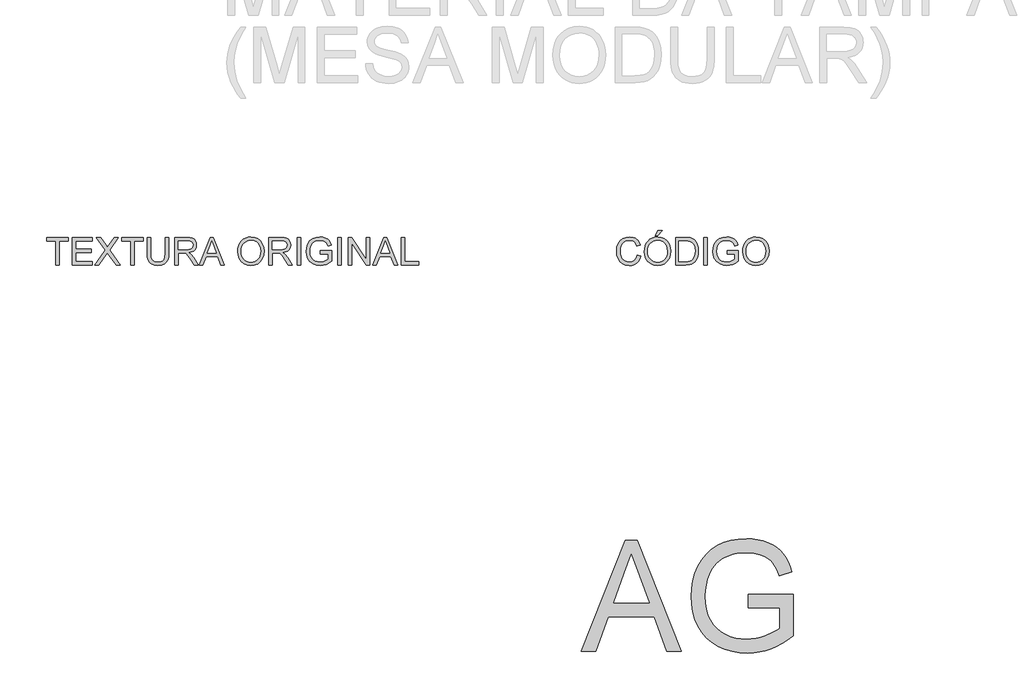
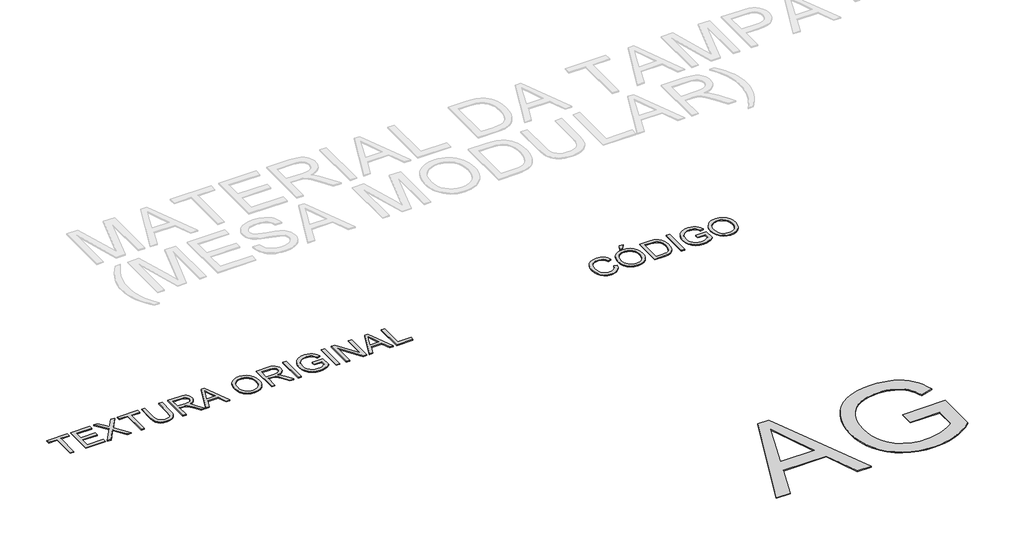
# One storey, part 37 of 67: 3 proxies.
"""IFC4 building model written with IfcOpenShell, lengths in millimetres."""

from ifc_helpers import new_model, si_unit, origin, origin_with_axes, place, context, project, spatial, polyline, outline, extrude, element, save

model = new_model("IFC4")

# Units and contexts
model_context = context("Model", 3, world=origin())
ifc_project = project(units=[si_unit("LENGTHUNIT", "METRE", prefix="MILLI")], contexts=[model_context])

# Site, building, storey
site = spatial("IfcSite", under=ifc_project)
building = spatial("IfcBuilding", under=site)
storey = spatial("IfcBuildingStorey", under=building, Name="Marelli - Linha COLAB - Planta Baixa", Elevation=0.0)

# Proxies
placement = place(None, origin())
element("IfcBuildingElementProxy", 1, Name="1200mm Arial", ObjectType="1200mm Arial", at=placement, inside=storey, context=model_context, shape_type="SweptSolid", body=[
    extrude(outline(polyline([(24687.9026305, -87980.5663201), (25169.0922802, -86775.0905983), (25297.4095201, -86775.0905983), (25778.5991698, -87980.5663201), (25619.3798423, -87980.5663201), (25481.3505177, -87603.855157), (24984.856977, -87603.855157), (24847.121958, -87980.5663201), (24687.9026305, -87980.5663201)]), holes=[polyline([(25040.1864291, -87453.1706918), (25426.3153712, -87453.1706918), (25317.7166063, -87156.8049565), (25233.2509002, -86925.7750635), (25158.2029731, -87130.906064), (25040.1864291, -87453.1706918)])]), origin_with_axes(), (0.0, 0.0, 1.0), 10.0),
    extrude(outline(polyline([(26504.6510755, -87509.6773662), (26504.6510755, -87358.992901), (26994.3755875, -87358.992901), (26994.3755875, -87809.5747687), (26935.3397243, -87853.886155), (26875.365762, -87892.3482176), (26814.4537007, -87924.9609565), (26752.6035402, -87951.7243716), (26689.8888571, -87972.5832808), (26626.3832277, -87987.4825016), (26562.086652, -87996.4220341), (26496.99913, -87999.4018782), (26410.4456936, -87994.6653975), (26327.9573532, -87980.4559555), (26249.5341089, -87956.773552), (26175.1759606, -87923.6181872), (26107.2833384, -87881.4865017), (26048.2566723, -87830.8751362), (25998.0959622, -87771.7840908), (25956.8012083, -87704.2133653), (25924.5471544, -87630.3242666), (25901.5085444, -87552.2781013), (25887.6853784, -87470.0748695), (25883.0776564, -87383.7145711), (25887.6669843, -87297.3450757), (25901.434968, -87213.9370303), (25924.3816075, -87133.490435), (25956.5069027, -87056.0052898), (25997.2406366, -86984.8845031), (26046.0125921, -86923.5309833), (26102.8227692, -86871.9447306), (26167.6711679, -86830.1257448), (26239.1506396, -86797.8073115), (26315.8540356, -86774.7227163), (26397.7813559, -86760.8719592), (26484.9326006, -86756.2550401), (26548.5577916, -86758.9313816), (26609.0559857, -86766.9604062), (26666.4271829, -86780.3421138), (26720.6713831, -86799.0765044), (26770.5101964, -86822.5841639), (26814.6652328, -86850.2856781), (26853.1364925, -86882.1810471), (26885.9239753, -86918.2702708), (26914.076145, -86959.3718867), (26938.6414652, -87006.3044322), (26959.619936, -87059.0679074), (26977.0115573, -87117.6623122), (26838.0993159, -87156.8049565), (26823.4300214, -87114.6548769), (26807.0868637, -87077.3792337), (26789.069843, -87044.978027), (26769.3789592, -87017.4512567), (26746.6438519, -86993.6125034), (26719.4941607, -86972.2753477), (26687.9298855, -86953.4397895), (26651.9510264, -86937.1058289), (26612.7256086, -86923.9080624), (26571.4216576, -86914.4810862), (26528.0391733, -86908.8249006), (26482.5781558, -86906.9395053), (26428.6926405, -86908.9720534), (26378.5779157, -86915.0696974), (26332.2339814, -86925.2324376), (26289.6608375, -86939.4602737), (26250.9412575, -86956.9898508), (26216.1580149, -86977.0578136), (26185.3111096, -86999.6641622), (26158.4005416, -87024.8088966), (26114.0707612, -87080.2487133), (26080.8510171, -87140.9124543), (26060.2496253, -87196.6465765), (26045.5343455, -87254.6615672), (26036.7051776, -87314.9574262), (26033.7621217, -87377.5341536), (26037.3029859, -87452.7752186), (26047.9255785, -87521.6335311), (26065.6298995, -87584.1090909), (26090.4159489, -87640.2018981), (26121.96183, -87689.7004206), (26159.945646, -87732.3931261), (26204.3673969, -87768.2800148), (26255.2270828, -87797.3610865), (26310.1426676, -87819.8294793), (26366.7321155, -87835.8783314), (26424.9954265, -87845.5076426), (26484.9326006, -87848.717413), (26537.4385583, -87846.2985889), (26589.3007226, -87839.0421165), (26640.5190934, -87826.9479959), (26691.0936707, -87810.0162271), (26779.4957141, -87770.0274542), (26814.6192476, -87749.0673776), (26843.6911222, -87727.4635074), (26843.6911222, -87509.6773662), (26504.6510755, -87509.6773662)])), origin_with_axes(), (0.0, 0.0, 1.0), 10.0),
])
element("IfcBuildingElementProxy", 2, Name="300mm Arial", ObjectType="300mm Arial", at=placement, inside=storey, context=model_context, shape_type="SweptSolid", body=[
    extrude(outline(polyline([(25299.1753537, -83673.4390831), (25336.84647, -83683.1511677), (25329.3922611, -83706.5783531), (25319.4640457, -83727.0486868), (25307.061824, -83744.5621691), (25292.1855958, -83759.1187997), (25275.1710535, -83770.5622291), (25256.3538895, -83778.7361071), (25235.7341036, -83783.640434), (25213.311696, -83785.2752096), (25169.616512, -83780.3271968), (25134.9160429, -83765.4831583), (25108.3181746, -83741.2581289), (25088.9307935, -83708.1671434), (25077.0941903, -83669.2636224), (25073.1486559, -83627.6009865), (25077.6092251, -83583.6574821), (25090.9909326, -83545.7104543), (25112.5948028, -83514.9647166), (25141.7218598, -83492.6250824), (25176.2659791, -83479.0226457), (25214.1210364, -83474.4885001), (25255.4249874, -83480.3562179), (25273.3937236, -83487.6908652), (25289.5736336, -83497.9593714), (25303.698003, -83510.8904235), (25315.5001172, -83526.2127086), (25332.1375805, -83564.0309777), (25294.4664642, -83573.0072984), (25281.4066533, -83545.5357104), (25263.5643766, -83526.6909552), (25240.7189047, -83515.7924511), (25212.6495084, -83512.1596164), (25180.294287, -83516.1879242), (25153.7148128, -83528.2728478), (25133.5456824, -83547.1451941), (25120.4214922, -83571.5357704), (25113.2202022, -83599.1085259), (25110.8197722, -83627.5274101), (25113.6616606, -83662.3290468), (25122.1873258, -83692.421794), (25136.7186646, -83716.6560205), (25157.5775738, -83733.8820949), (25182.5843524, -83744.1735937), (25209.5592997, -83747.6040933), (25241.0040132, -83742.931992), (25267.2064083, -83728.9156879), (25286.9892626, -83705.702334), (25299.1753537, -83673.4390831)])), origin_with_axes(), (0.0, 0.0, 1.0), 10.0),
    extrude(outline(polyline([(25374.5175863, -83633.8549804), (25377.0283809, -83598.5061192), (25384.5607648, -83567.213157), (25397.1147379, -83539.9760937), (25414.6903002, -83516.7949295), (25436.2343895, -83498.2858666), (25460.6939437, -83485.0651074), (25488.0689626, -83477.1326519), (25518.3594464, -83474.4885001), (25557.8883668, -83479.454907), (25593.333797, -83494.3541278), (25622.7643567, -83518.1376988), (25644.2486652, -83549.7571563), (25657.3820524, -83587.68579), (25661.7598481, -83630.3968896), (25657.1521262, -83673.6782064), (25643.3289602, -83712.140269), (25621.0537054, -83743.8149087), (25591.0897169, -83766.733957), (25555.9477893, -83780.6398965), (25518.1387172, -83785.2752096), (25478.0027916, -83780.1524528), (25442.3550262, -83764.7841825), (25412.998043, -83740.5591531), (25391.7344637, -83708.8661192), (25378.8218057, -83672.3998164), (25374.5175863, -83633.8549804)]), holes=[polyline([(25412.1887026, -83634.2228624), (25414.0717986, -83659.1974513), (25419.7210865, -83681.3669401), (25429.1365663, -83700.7313286), (25442.318238, -83717.2906169), (25458.3417982, -83730.5527628), (25476.2829432, -83740.0257242), (25496.1416732, -83745.709501), (25517.917988, -83747.6040933), (25540.0667834, -83745.6911069), (25560.1600381, -83739.9521478), (25578.1977522, -83730.3872159), (25594.1799256, -83716.9963113), (25607.2650283, -83700.0875351), (25616.6115303, -83679.9689885), (25622.2194315, -83656.6406715), (25624.0887318, -83630.102584), (25620.8881585, -83596.7540812), (25611.2864384, -83567.9305269), (25595.531892, -83544.358488), (25573.8728395, -83526.7645316), (25547.7440208, -83515.8108452), (25518.5801756, -83512.1596164), (25497.5603181, -83513.9185522), (25478.0579739, -83519.1953595), (25460.0731428, -83527.9900385), (25443.605825, -83540.302589), (25429.860834, -83556.7262208), (25420.0429832, -83577.8541437), (25414.1522728, -83603.6863575), (25412.1887026, -83634.2228624)])]), origin_with_axes(), (0.0, 0.0, 1.0), 10.0),
    extrude(outline(polyline([(25492.2398248, -83460.3618315), (25520.493162, -83403.855157), (25567.5820574, -83403.855157), (25520.493162, -83460.3618315), (25492.2398248, -83460.3618315)])), origin_with_axes(), (0.0, 0.0, 1.0), 10.0),
    extrude(outline(polyline([(25713.5576331, -83780.5663201), (25713.5576331, -83479.1973896), (25817.5210849, -83479.1973896), (25871.3054326, -83483.5383972), (25895.3281269, -83491.9077126), (25915.5984248, -83505.0962821), (25936.4389398, -83528.0521186), (25951.2829783, -83556.5997614), (25960.1673285, -83590.1873876), (25963.1287786, -83628.2631741), (25961.1238217, -83660.6091985), (25955.1089511, -83689.0740679), (25945.9486894, -83713.3082943), (25934.5075594, -83732.9623899), (25921.3373839, -83748.477813), (25906.9899861, -83760.2960221), (25890.5180698, -83769.0608107), (25870.9743388, -83775.4159721), (25822.52428, -83780.5663201), (25713.5576331, -83780.5663201)]), holes=[polyline([(25751.2287494, -83742.8952038), (25817.8889669, -83742.8952038), (25845.4617224, -83741.5340404), (25866.3758139, -83737.4505502), (25882.1579515, -83730.8838566), (25894.3348455, -83722.0730828), (25907.4222475, -83705.7667134), (25917.2538938, -83684.6594839), (25923.4067202, -83658.6594239), (25925.4576623, -83627.6745629), (25921.4385515, -83586.6189322), (25909.3812191, -83556.3054558), (25891.5665335, -83535.4833349), (25870.275363, -83522.9017706), (25848.6071135, -83518.3768221), (25816.8588973, -83516.8685059), (25751.2287494, -83516.8685059), (25751.2287494, -83742.8952038)])]), origin_with_axes(), (0.0, 0.0, 1.0), 10.0),
    extrude(outline(polyline([(26019.6354531, -83780.5663201), (26019.6354531, -83479.1973896), (26057.3065694, -83479.1973896), (26057.3065694, -83780.5663201), (26019.6354531, -83780.5663201)])), origin_with_axes(), (0.0, 0.0, 1.0), 10.0),
    extrude(outline(polyline([(26273.9154881, -83662.8440816), (26273.9154881, -83625.1729653), (26396.3466161, -83625.1729653), (26396.3466161, -83737.8184322), (26366.5941598, -83758.5117945), (26335.9036043, -83773.355833), (26304.3485262, -83782.2953654), (26272.0025017, -83785.2752096), (26229.7420575, -83780.5387289), (26191.5467094, -83766.3292869), (26159.8168873, -83743.1435241), (26136.9530213, -83711.4780814), (26123.1298553, -83673.4942654), (26118.5221334, -83631.3533828), (26123.1114612, -83588.9089976), (26136.8794449, -83549.4260625), (26159.2558673, -83516.3074859), (26189.6705112, -83492.9561762), (26226.7162281, -83479.1054191), (26268.9858694, -83474.4885001), (26300.0167157, -83477.1648416), (26327.920565, -83485.1938661), (26351.4190275, -83497.9961596), (26369.2337131, -83514.9923077), (26382.4130855, -83537.0008481), (26392.0056086, -83564.8403181), (26357.2775482, -83574.6259792), (26349.5244352, -83554.7695485), (26340.0974591, -83539.7875542), (26327.6262594, -83528.493577), (26310.7404758, -83519.7011973), (26290.6081337, -83514.0450116), (26268.3972582, -83512.1596164), (26242.3971982, -83514.1921644), (26220.1679286, -83520.2898085), (26201.792223, -83529.6891935), (26187.3528547, -83541.6269642), (26167.9654735, -83570.6528536), (26159.1363056, -83599.0901318), (26156.1932497, -83629.8082784), (26159.7341139, -83665.8331228), (26170.3567065, -83695.4752146), (26187.7391307, -83718.5230216), (26211.5594899, -83734.7650117), (26239.4357481, -83744.3943229), (26268.9858694, -83747.6040933), (26295.0778999, -83745.1852692), (26320.5261369, -83737.9287968), (26342.6266478, -83727.9316036), (26358.6754998, -83717.2906169), (26358.6754998, -83662.8440816), (26273.9154881, -83662.8440816)])), origin_with_axes(), (0.0, 0.0, 1.0), 10.0),
    extrude(outline(polyline([(26443.4355115, -83633.8549804), (26445.9463061, -83598.5061192), (26453.47869, -83567.213157), (26466.0326631, -83539.9760937), (26483.6082254, -83516.7949295), (26505.1523147, -83498.2858666), (26529.6118689, -83485.0651074), (26556.9868878, -83477.1326519), (26587.2773716, -83474.4885001), (26626.806292, -83479.454907), (26662.2517222, -83494.3541278), (26691.6822818, -83518.1376988), (26713.1665904, -83549.7571563), (26726.2999776, -83587.68579), (26730.6777733, -83630.3968896), (26726.0700513, -83673.6782064), (26712.2468854, -83712.140269), (26689.9716306, -83743.8149087), (26660.0076421, -83766.733957), (26624.8657145, -83780.6398965), (26587.0566424, -83785.2752096), (26546.9207167, -83780.1524528), (26511.2729514, -83764.7841825), (26481.9159682, -83740.5591531), (26460.6523889, -83708.8661192), (26447.7397308, -83672.3998164), (26443.4355115, -83633.8549804)]), holes=[polyline([(26481.1066278, -83634.2228624), (26482.9897238, -83659.1974513), (26488.6390117, -83681.3669401), (26498.0544915, -83700.7313286), (26511.2361632, -83717.2906169), (26527.2597234, -83730.5527628), (26545.2008684, -83740.0257242), (26565.0595984, -83745.709501), (26586.8359132, -83747.6040933), (26608.9847086, -83745.6911069), (26629.0779633, -83739.9521478), (26647.1156774, -83730.3872159), (26663.0978508, -83716.9963113), (26676.1829535, -83700.0875351), (26685.5294555, -83679.9689885), (26691.1373566, -83656.6406715), (26693.006657, -83630.102584), (26689.8060837, -83596.7540812), (26680.2043636, -83567.9305269), (26664.4498171, -83544.358488), (26642.7907647, -83526.7645316), (26616.661946, -83515.8108452), (26587.4981008, -83512.1596164), (26566.4782433, -83513.9185522), (26546.975899, -83519.1953595), (26528.991068, -83527.9900385), (26512.5237502, -83540.302589), (26498.7787591, -83556.7262208), (26488.9609084, -83577.8541437), (26483.070198, -83603.6863575), (26481.1066278, -83634.2228624)])]), origin_with_axes(), (0.0, 0.0, 1.0), 10.0),
])
element("IfcBuildingElementProxy", 3, Name="300mm Arial", ObjectType="300mm Arial", at=placement, inside=storey, context=model_context, shape_type="SweptSolid", body=[
    extrude(outline(polyline([(18978.3318382, -83780.5663201), (18978.3318382, -83516.8685059), (18879.4451579, -83516.8685059), (18879.4451579, -83479.1973896), (19114.8896348, -83479.1973896), (19114.8896348, -83516.8685059), (19016.0029545, -83516.8685059), (19016.0029545, -83780.5663201), (18978.3318382, -83780.5663201)])), origin_with_axes(), (0.0, 0.0, 1.0), 10.0),
    extrude(outline(polyline([(19157.2696407, -83780.5663201), (19157.2696407, -83479.1973896), (19373.8785594, -83479.1973896), (19373.8785594, -83516.8685059), (19194.940757, -83516.8685059), (19194.940757, -83606.3374072), (19364.4607804, -83606.3374072), (19364.4607804, -83644.0085235), (19194.940757, -83644.0085235), (19194.940757, -83742.8952038), (19378.587449, -83742.8952038), (19378.587449, -83780.5663201), (19157.2696407, -83780.5663201)])), origin_with_axes(), (0.0, 0.0, 1.0), 10.0),
    extrude(outline(polyline([(19402.1318967, -83780.5663201), (19518.3090307, -83616.3437974), (19420.9674548, -83479.1973896), (19466.1433638, -83479.1973896), (19520.9577811, -83556.3790322), (19539.4254573, -83586.4717794), (19561.0569186, -83555.8639974), (19615.2827247, -83479.1973896), (19661.1208213, -83479.1973896), (19563.7792453, -83616.7852558), (19679.9563794, -83780.5663201), (19634.7804704, -83780.5663201), (19557.3780986, -83671.3789439), (19541.2648672, -83648.717413), (19523.5329551, -83673.5862359), (19447.9699933, -83780.5663201), (19402.1318967, -83780.5663201)])), origin_with_axes(), (0.0, 0.0, 1.0), 10.0),
    extrude(outline(polyline([(19792.9697283, -83780.5663201), (19792.9697283, -83516.8685059), (19694.083048, -83516.8685059), (19694.083048, -83479.1973896), (19929.5275249, -83479.1973896), (19929.5275249, -83516.8685059), (19830.6408446, -83516.8685059), (19830.6408446, -83780.5663201), (19792.9697283, -83780.5663201)])), origin_with_axes(), (0.0, 0.0, 1.0), 10.0),
    extrude(outline(polyline([(20169.6808914, -83479.1973896), (20207.3520077, -83479.1973896), (20207.3520077, -83653.0584205), (20204.7952278, -83693.7737604), (20197.1248882, -83725.1265034), (20182.7958845, -83749.3147446), (20160.2631123, -83768.5365788), (20129.4713893, -83781.0905519), (20090.3655332, -83785.2752096), (20052.1150028, -83781.6331779), (20021.5348119, -83770.7070826), (19998.6157636, -83752.8740029), (19983.3486608, -83728.5110178), (19974.7678133, -83695.8338995), (19971.9075308, -83653.0584205), (19971.9075308, -83479.1973896), (20009.5786471, -83479.1973896), (20009.5786471, -83651.7340454), (20011.4364512, -83685.588386), (20017.0098634, -83709.1604248), (20027.1082242, -83725.4851883), (20042.5408739, -83737.597703), (20062.664019, -83745.1024957), (20086.8338661, -83747.6040933), (20125.1487759, -83742.6560805), (20139.4915752, -83736.4710644), (20150.624604, -83727.812042), (20158.9617298, -83715.6351479), (20164.9168196, -83698.8965171), (20169.6808914, -83651.7340454), (20169.6808914, -83479.1973896)])), origin_with_axes(), (0.0, 0.0, 1.0), 10.0),
    extrude(outline(polyline([(20273.2764612, -83780.5663201), (20273.2764612, -83479.1973896), (20403.1388055, -83479.1973896), (20438.0416098, -83481.2299376), (20463.4346645, -83487.3275817), (20481.9943112, -83498.5847708), (20496.3968913, -83516.0959537), (20505.6399264, -83537.8101885), (20508.7209382, -83561.6765329), (20503.6165755, -83591.3646099), (20488.3034874, -83615.9759154), (20476.7037083, -83626.0052983), (20462.3218215, -83634.0205273), (20425.2117252, -83644.0085235), (20446.6224574, -83660.1217548), (20477.156663, -83698.8965171), (20527.4093435, -83780.5663201), (20483.6313861, -83780.5663201), (20444.4151654, -83718.0999573), (20416.0882518, -83676.750021), (20396.1858358, -83657.2154871), (20378.2699827, -83650.0417882), (20356.4177921, -83648.717413), (20310.9475775, -83648.717413), (20310.9475775, -83780.5663201), (20273.2764612, -83780.5663201)]), holes=[polyline([(20310.9475775, -83611.0462967), (20395.2661308, -83611.0462967), (20419.4819632, -83609.7127245), (20438.2715361, -83605.7120078), (20452.4165988, -83598.7774322), (20462.6989006, -83588.6422832), (20468.9620915, -83576.3826157), (20471.0498218, -83563.0744845), (20467.0674992, -83544.6987789), (20455.1205315, -83529.8915286), (20434.565125, -83520.1242616), (20404.7574863, -83516.8685059), (20310.9475775, -83516.8685059), (20310.9475775, -83611.0462967)])]), origin_with_axes(), (0.0, 0.0, 1.0), 10.0),
    extrude(outline(polyline([(20539.5494493, -83780.5663201), (20659.8468618, -83479.1973896), (20691.9261717, -83479.1973896), (20812.2235842, -83780.5663201), (20772.4187523, -83780.5663201), (20737.9114211, -83686.3885293), (20613.788036, -83686.3885293), (20579.3542812, -83780.5663201), (20539.5494493, -83780.5663201)]), holes=[polyline([(20627.620399, -83648.717413), (20724.1526345, -83648.717413), (20697.0029433, -83574.6259792), (20675.8865168, -83516.8685059), (20657.124535, -83568.1512561), (20627.620399, -83648.717413)])]), origin_with_axes(), (0.0, 0.0, 1.0), 10.0),
    extrude(outline(polyline([(20956.0654443, -83633.8549804), (20958.5762389, -83598.5061192), (20966.1086228, -83567.213157), (20978.6625958, -83539.9760937), (20996.2381582, -83516.7949295), (21017.7822475, -83498.2858666), (21042.2418017, -83485.0651074), (21069.6168206, -83477.1326519), (21099.9073044, -83474.4885001), (21139.4362248, -83479.454907), (21174.881655, -83494.3541278), (21204.3122146, -83518.1376988), (21225.7965232, -83549.7571563), (21238.9299104, -83587.68579), (21243.3077061, -83630.3968896), (21238.6999841, -83673.6782064), (21224.8768182, -83712.140269), (21202.6015634, -83743.8149087), (21172.6375748, -83766.733957), (21137.4956473, -83780.6398965), (21099.6865752, -83785.2752096), (21059.5506495, -83780.1524528), (21023.9028842, -83764.7841825), (20994.545901, -83740.5591531), (20973.2823217, -83708.8661192), (20960.3696636, -83672.3998164), (20956.0654443, -83633.8549804)]), holes=[polyline([(20993.7365606, -83634.2228624), (20995.6196566, -83659.1974513), (21001.2689444, -83681.3669401), (21010.6844243, -83700.7313286), (21023.866096, -83717.2906169), (21039.8896562, -83730.5527628), (21057.8308012, -83740.0257242), (21077.6895312, -83745.709501), (21099.465846, -83747.6040933), (21121.6146414, -83745.6911069), (21141.7078961, -83739.9521478), (21159.7456102, -83730.3872159), (21175.7277836, -83716.9963113), (21188.8128863, -83700.0875351), (21198.1593883, -83679.9689885), (21203.7672894, -83656.6406715), (21205.6365898, -83630.102584), (21202.4360165, -83596.7540812), (21192.8342964, -83567.9305269), (21177.0797499, -83544.358488), (21155.4206975, -83526.7645316), (21129.2918788, -83515.8108452), (21100.1280336, -83512.1596164), (21079.1081761, -83513.9185522), (21059.6058318, -83519.1953595), (21041.6210008, -83527.9900385), (21025.153683, -83540.302589), (21011.4086919, -83556.7262208), (21001.5908412, -83577.8541437), (20995.7001307, -83603.6863575), (20993.7365606, -83634.2228624)])]), origin_with_axes(), (0.0, 0.0, 1.0), 10.0),
    extrude(outline(polyline([(21295.105491, -83780.5663201), (21295.105491, -83479.1973896), (21424.9678353, -83479.1973896), (21459.8706396, -83481.2299376), (21485.2636943, -83487.3275817), (21503.823341, -83498.5847708), (21518.2259211, -83516.0959537), (21527.4689562, -83537.8101885), (21530.549968, -83561.6765329), (21525.4456053, -83591.3646099), (21510.1325172, -83615.9759154), (21498.5327381, -83626.0052983), (21484.1508513, -83634.0205273), (21447.040755, -83644.0085235), (21468.4514872, -83660.1217548), (21498.9856928, -83698.8965171), (21549.2383733, -83780.5663201), (21505.4604159, -83780.5663201), (21466.2441952, -83718.0999573), (21437.9172816, -83676.750021), (21418.0148656, -83657.2154871), (21400.0990125, -83650.0417882), (21378.246822, -83648.717413), (21332.7766073, -83648.717413), (21332.7766073, -83780.5663201), (21295.105491, -83780.5663201)]), holes=[polyline([(21332.7766073, -83611.0462967), (21417.0951606, -83611.0462967), (21441.310993, -83609.7127245), (21460.1005659, -83605.7120078), (21474.2456286, -83598.7774322), (21484.5279304, -83588.6422832), (21490.7911213, -83576.3826157), (21492.8788516, -83563.0744845), (21488.8965291, -83544.6987789), (21476.9495613, -83529.8915286), (21456.3941548, -83520.1242616), (21426.5865161, -83516.8685059), (21332.7766073, -83516.8685059), (21332.7766073, -83611.0462967)])]), origin_with_axes(), (0.0, 0.0, 1.0), 10.0),
    extrude(outline(polyline([(21601.183311, -83780.5663201), (21601.183311, -83479.1973896), (21638.8544273, -83479.1973896), (21638.8544273, -83780.5663201), (21601.183311, -83780.5663201)])), origin_with_axes(), (0.0, 0.0, 1.0), 10.0),
    extrude(outline(polyline([(21855.4633461, -83662.8440816), (21855.4633461, -83625.1729653), (21977.8944741, -83625.1729653), (21977.8944741, -83737.8184322), (21948.1420177, -83758.5117945), (21917.4514623, -83773.355833), (21885.8963841, -83782.2953654), (21853.5503597, -83785.2752096), (21811.2899155, -83780.5387289), (21773.0945674, -83766.3292869), (21741.3647453, -83743.1435241), (21718.5008793, -83711.4780814), (21704.6777133, -83673.4942654), (21700.0699913, -83631.3533828), (21704.6593192, -83588.9089976), (21718.4273029, -83549.4260625), (21740.8037252, -83516.3074859), (21771.2183692, -83492.9561762), (21808.2640861, -83479.1054191), (21850.5337274, -83474.4885001), (21881.5645737, -83477.1648416), (21909.468423, -83485.1938661), (21932.9668854, -83497.9961596), (21950.781571, -83514.9923077), (21963.9609435, -83537.0008481), (21973.5534665, -83564.8403181), (21938.8254062, -83574.6259792), (21931.0722932, -83554.7695485), (21921.645317, -83539.7875542), (21909.1741174, -83528.493577), (21892.2883338, -83519.7011973), (21872.1559916, -83514.0450116), (21849.9451162, -83512.1596164), (21823.9450562, -83514.1921644), (21801.7157866, -83520.2898085), (21783.3400809, -83529.6891935), (21768.9007126, -83541.6269642), (21749.5133315, -83570.6528536), (21740.6841636, -83599.0901318), (21737.7411076, -83629.8082784), (21741.2819718, -83665.8331228), (21751.9045645, -83695.4752146), (21769.2869887, -83718.5230216), (21793.1073479, -83734.7650117), (21820.9836061, -83744.3943229), (21850.5337274, -83747.6040933), (21876.6257579, -83745.1852692), (21902.0739949, -83737.9287968), (21924.1745057, -83727.9316036), (21940.2233578, -83717.2906169), (21940.2233578, -83662.8440816), (21855.4633461, -83662.8440816)])), origin_with_axes(), (0.0, 0.0, 1.0), 10.0),
    extrude(outline(polyline([(22043.8189276, -83780.5663201), (22043.8189276, -83479.1973896), (22081.4900439, -83479.1973896), (22081.4900439, -83780.5663201), (22043.8189276, -83780.5663201)])), origin_with_axes(), (0.0, 0.0, 1.0), 10.0),
    extrude(outline(polyline([(22156.8322765, -83780.5663201), (22156.8322765, -83479.1973896), (22197.1521432, -83479.1973896), (22354.6056372, -83717.9528045), (22354.6056372, -83479.1973896), (22392.2767535, -83479.1973896), (22392.2767535, -83780.5663201), (22351.9568868, -83780.5663201), (22194.5033928, -83541.7373288), (22194.5033928, -83780.5663201), (22156.8322765, -83780.5663201)])), origin_with_axes(), (0.0, 0.0, 1.0), 10.0),
    extrude(outline(polyline([(22423.1052647, -83780.5663201), (22543.4026771, -83479.1973896), (22575.4819871, -83479.1973896), (22695.7793995, -83780.5663201), (22655.9745676, -83780.5663201), (22621.4672365, -83686.3885293), (22497.3438513, -83686.3885293), (22462.9100965, -83780.5663201), (22423.1052647, -83780.5663201)]), holes=[polyline([(22511.1762143, -83648.717413), (22607.7084498, -83648.717413), (22580.5587586, -83574.6259792), (22559.4423321, -83516.8685059), (22540.6803503, -83568.1512561), (22511.1762143, -83648.717413)])]), origin_with_axes(), (0.0, 0.0, 1.0), 10.0),
    extrude(outline(polyline([(22736.0256898, -83780.5663201), (22736.0256898, -83479.1973896), (22773.6968061, -83479.1973896), (22773.6968061, -83742.8952038), (22924.3812713, -83742.8952038), (22924.3812713, -83780.5663201), (22736.0256898, -83780.5663201)])), origin_with_axes(), (0.0, 0.0, 1.0), 10.0),
])

save(model, "model.ifc")
